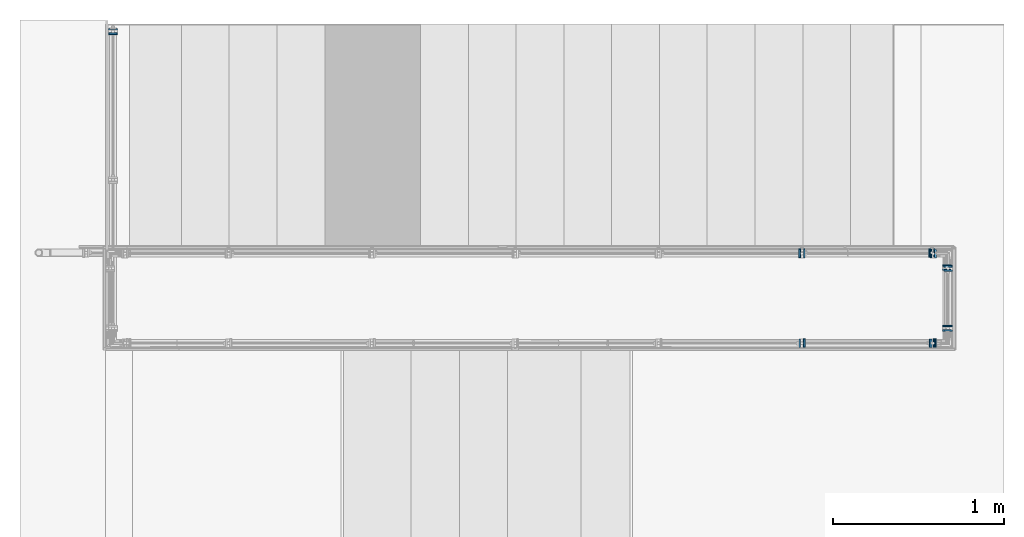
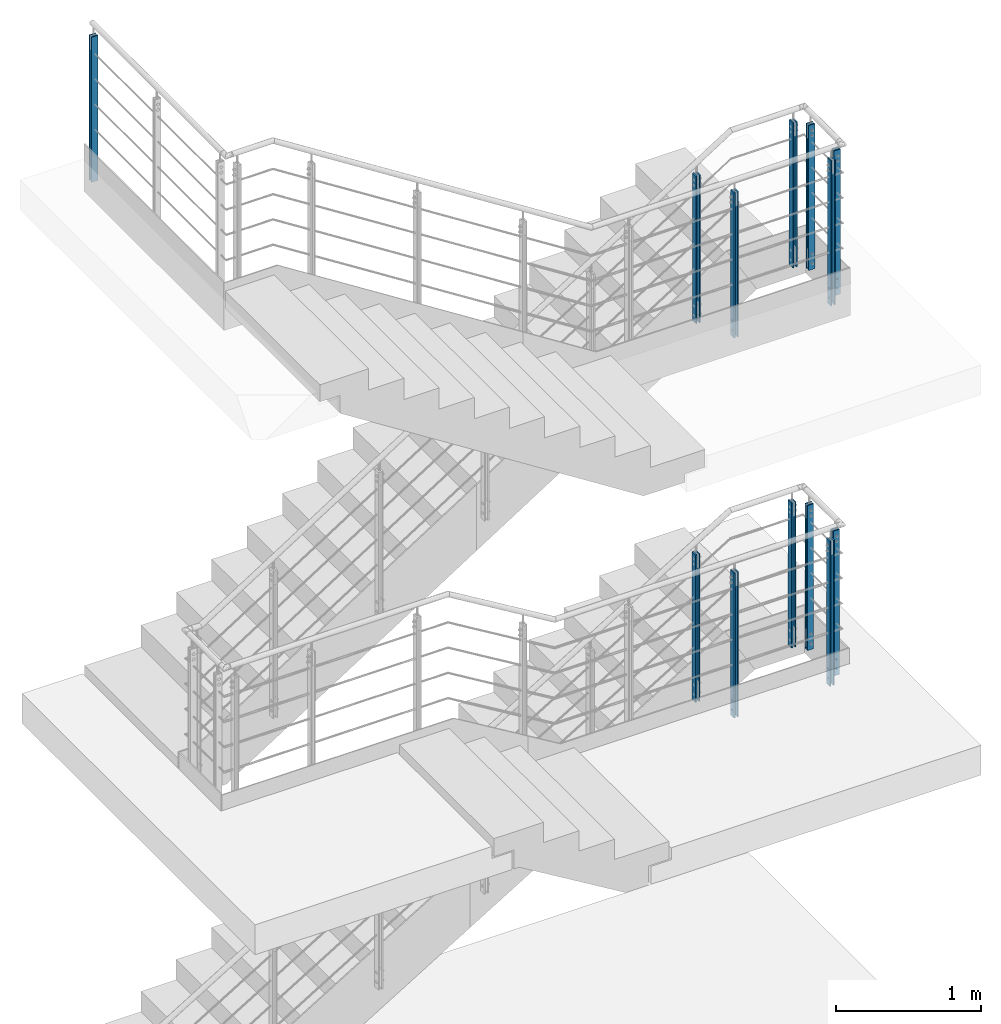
# One storey, part 4 of 98: 26 columns, 52 openings.
"""IFC2X3 building model written with IfcOpenShell, lengths in millimetres."""

from ifc_helpers import new_model, entity, si_unit, converted_unit, frame, frame_2d, origin, origin_with_axes, origin_2d, place, context, project, spatial, rectangle, circle, extrude, material, element, save


model = new_model("IFC2X3")

# Units and contexts
model_context = context("Model", 3, precision=1e-09, world=origin_with_axes())
ifc_project = project(units=[si_unit("LENGTHUNIT", "METRE", prefix="MILLI"), si_unit("AREAUNIT", "SQUARE_METRE"), si_unit("VOLUMEUNIT", "CUBIC_METRE"), converted_unit("PLANEANGLEUNIT", "DEGREE", entity("IfcPlaneAngleMeasure", 0.01745329), si_unit("PLANEANGLEUNIT", "RADIAN"), dimensions=[0, 0, 0, 0, 0, 0, 0])], contexts=[model_context])

# Site, building, storey
site_placement = place(None, origin_with_axes())
site = spatial("IfcSite", under=ifc_project, at=site_placement, Name="Maybachstra?e 2, 71563 Affalterbach", CompositionType="ELEMENT")
building_placement = place(site_placement, origin_with_axes())
building = spatial("IfcBuilding", under=site, at=building_placement, Name="Struktur 1", CompositionType="ELEMENT")
storey_placement = place(building_placement, origin_with_axes())
storey = spatial("IfcBuildingStorey", under=building, at=storey_placement, Name="Default Storey", CompositionType="ELEMENT", Elevation=0.0)

# Column, openings
ifc_material = material(Name="S235JR")
column_1_placement = place(None, frame((11361.779157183, -570.0, 7070.1), z_axis=(0.0, 0.0, 1.0), x_axis=(-1.0, 0.0, 0.0)))
column_1 = element("IfcColumn", 1, at=column_1_placement, inside=storey, material=ifc_material, Name="-", ObjectType="-", context=model_context, shape_type="SweptSolid", body=[
    extrude(rectangle(XDim=10.0, YDim=50.0, at=origin_2d()), origin(), (0.0, 0.0, -1.0), 1217.6),
])
opening_1_placement = place(column_1_placement, frame((5.5, 0.0, -1122.6), z_axis=(-1.0, 0.0, 0.0), x_axis=(0.0, -1.0, 0.0)))
element("IfcOpeningElement", 2, at=opening_1_placement, cuts=column_1, ObjectType="Opening", context=model_context, shape_type="SweptSolid", body=[
    extrude(circle(Radius=7.001, at=frame_2d((0.0, 40.0), x_axis=(1.0, 0.0))), origin(), (0.0, 0.0, 1.0), 11.0),
])
opening_2_placement = place(column_1_placement, frame((5.5, 0.0, -1122.6), z_axis=(-1.0, 0.0, 0.0), x_axis=(0.0, -1.0, 0.0)))
element("IfcOpeningElement", 3, at=opening_2_placement, cuts=column_1, ObjectType="Opening", context=model_context, shape_type="SweptSolid", body=[
    extrude(circle(Radius=7.001, at=frame_2d((0.0, -40.0), x_axis=(1.0, 0.0))), origin(), (0.0, 0.0, 1.0), 11.0),
])
opening_3_placement = place(column_1_placement, frame((5.5, 0.0, -67.0), z_axis=(-1.0, 0.0, 0.0), x_axis=(0.0, -1.0, 0.0)))
element("IfcOpeningElement", 4, at=opening_3_placement, cuts=column_1, ObjectType="Opening", context=model_context, shape_type="SweptSolid", body=[
    extrude(circle(Radius=7.001, at=frame_2d((0.0, 22.0), x_axis=(1.0, 0.0))), origin(), (0.0, 0.0, 1.0), 11.0),
])
opening_4_placement = place(column_1_placement, frame((5.5, 0.0, -67.0), z_axis=(-1.0, 0.0, 0.0), x_axis=(0.0, -1.0, 0.0)))
element("IfcOpeningElement", 5, at=opening_4_placement, cuts=column_1, ObjectType="Opening", context=model_context, shape_type="SweptSolid", body=[
    extrude(circle(Radius=7.001, at=frame_2d((0.0, -22.0), x_axis=(1.0, 0.0))), origin(), (0.0, 0.0, 1.0), 11.0),
])

# Column
column_2_placement = place(None, frame((11388.279157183, -570.0, 7070.1), z_axis=(0.0, 0.0, 1.0), x_axis=(-1.0, 0.0, 0.0)))
element("IfcColumn", 6, at=column_2_placement, inside=storey, material=ifc_material, Name="Gel?nder", ObjectType="Gel?nder", context=model_context, shape_type="SweptSolid", body=[
    extrude(rectangle(XDim=10.0, YDim=50.0, at=origin_2d()), origin(), (0.0, 0.0, -1.0), 1217.6),
])

# Column, openings
column_3_placement = place(None, frame((12130.779157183, -570.0, 7070.1), z_axis=(0.0, 0.0, 1.0), x_axis=(-1.0, 0.0, 0.0)))
column_3 = element("IfcColumn", 7, at=column_3_placement, inside=storey, material=ifc_material, Name="-", ObjectType="-", context=model_context, shape_type="SweptSolid", body=[
    extrude(rectangle(XDim=10.0, YDim=50.0, at=origin_2d()), origin(), (0.0, 0.0, -1.0), 1217.6),
])
opening_5_placement = place(column_3_placement, frame((5.5, 0.0, -1122.6), z_axis=(-1.0, 0.0, 0.0), x_axis=(0.0, -1.0, 0.0)))
element("IfcOpeningElement", 8, at=opening_5_placement, cuts=column_3, ObjectType="Opening", context=model_context, shape_type="SweptSolid", body=[
    extrude(circle(Radius=7.001, at=frame_2d((0.0, 40.0), x_axis=(1.0, 0.0))), origin(), (0.0, 0.0, 1.0), 11.0),
])
opening_6_placement = place(column_3_placement, frame((5.5, 0.0, -1122.6), z_axis=(-1.0, 0.0, 0.0), x_axis=(0.0, -1.0, 0.0)))
element("IfcOpeningElement", 9, at=opening_6_placement, cuts=column_3, ObjectType="Opening", context=model_context, shape_type="SweptSolid", body=[
    extrude(circle(Radius=7.001, at=frame_2d((0.0, -40.0), x_axis=(1.0, 0.0))), origin(), (0.0, 0.0, 1.0), 11.0),
])
opening_7_placement = place(column_3_placement, frame((5.5, 0.0, -67.0), z_axis=(-1.0, 0.0, 0.0), x_axis=(0.0, -1.0, 0.0)))
element("IfcOpeningElement", 10, at=opening_7_placement, cuts=column_3, ObjectType="Opening", context=model_context, shape_type="SweptSolid", body=[
    extrude(circle(Radius=7.001, at=frame_2d((0.0, 22.0), x_axis=(1.0, 0.0))), origin(), (0.0, 0.0, 1.0), 11.0),
])
opening_8_placement = place(column_3_placement, frame((5.5, 0.0, -67.0), z_axis=(-1.0, 0.0, 0.0), x_axis=(0.0, -1.0, 0.0)))
element("IfcOpeningElement", 11, at=opening_8_placement, cuts=column_3, ObjectType="Opening", context=model_context, shape_type="SweptSolid", body=[
    extrude(circle(Radius=7.001, at=frame_2d((0.0, -22.0), x_axis=(1.0, 0.0))), origin(), (0.0, 0.0, 1.0), 11.0),
])

# Column
column_4_placement = place(None, frame((12157.279157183, -570.0, 7070.1), z_axis=(0.0, 0.0, 1.0), x_axis=(-1.0, 0.0, 0.0)))
element("IfcColumn", 12, at=column_4_placement, inside=storey, material=ifc_material, Name="Gel?nder", ObjectType="Gel?nder", context=model_context, shape_type="SweptSolid", body=[
    extrude(rectangle(XDim=10.0, YDim=50.0, at=origin_2d()), origin(), (0.0, 0.0, -1.0), 1217.6),
])

# Column, openings
column_5_placement = place(None, frame((11361.779157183, -569.0, 3877.6), z_axis=(0.0, 0.0, 1.0), x_axis=(-1.0, 0.0, 0.0)))
column_5 = element("IfcColumn", 13, at=column_5_placement, inside=storey, material=ifc_material, Name="-", ObjectType="-", context=model_context, shape_type="SweptSolid", body=[
    extrude(rectangle(XDim=10.0, YDim=50.0, at=origin_2d()), origin(), (0.0, 0.0, -1.0), 1217.6),
])
opening_9_placement = place(column_5_placement, frame((5.5, 0.0, -1122.6), z_axis=(-1.0, 0.0, 0.0), x_axis=(0.0, -1.0, 0.0)))
element("IfcOpeningElement", 14, at=opening_9_placement, cuts=column_5, ObjectType="Opening", context=model_context, shape_type="SweptSolid", body=[
    extrude(circle(Radius=7.001, at=frame_2d((0.0, 40.0), x_axis=(1.0, 0.0))), origin(), (0.0, 0.0, 1.0), 11.0),
])
opening_10_placement = place(column_5_placement, frame((5.5, 0.0, -1122.6), z_axis=(-1.0, 0.0, 0.0), x_axis=(0.0, -1.0, 0.0)))
element("IfcOpeningElement", 15, at=opening_10_placement, cuts=column_5, ObjectType="Opening", context=model_context, shape_type="SweptSolid", body=[
    extrude(circle(Radius=7.001, at=frame_2d((0.0, -40.0), x_axis=(1.0, 0.0))), origin(), (0.0, 0.0, 1.0), 11.0),
])
opening_11_placement = place(column_5_placement, frame((5.5, 0.0, -67.0), z_axis=(-1.0, 0.0, 0.0), x_axis=(0.0, -1.0, 0.0)))
element("IfcOpeningElement", 16, at=opening_11_placement, cuts=column_5, ObjectType="Opening", context=model_context, shape_type="SweptSolid", body=[
    extrude(circle(Radius=7.001, at=frame_2d((0.0, 22.0), x_axis=(1.0, 0.0))), origin(), (0.0, 0.0, 1.0), 11.0),
])
opening_12_placement = place(column_5_placement, frame((5.5, 0.0, -67.0), z_axis=(-1.0, 0.0, 0.0), x_axis=(0.0, -1.0, 0.0)))
element("IfcOpeningElement", 17, at=opening_12_placement, cuts=column_5, ObjectType="Opening", context=model_context, shape_type="SweptSolid", body=[
    extrude(circle(Radius=7.001, at=frame_2d((0.0, -22.0), x_axis=(1.0, 0.0))), origin(), (0.0, 0.0, 1.0), 11.0),
])

# Column
column_6_placement = place(None, frame((11388.279157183, -569.0, 3877.6), z_axis=(0.0, 0.0, 1.0), x_axis=(-1.0, 0.0, 0.0)))
element("IfcColumn", 18, at=column_6_placement, inside=storey, material=ifc_material, Name="Gel?nder", ObjectType="Gel?nder", context=model_context, shape_type="SweptSolid", body=[
    extrude(rectangle(XDim=10.0, YDim=50.0, at=origin_2d()), origin(), (0.0, 0.0, -1.0), 1217.6),
])

# Column, openings
column_7_placement = place(None, frame((12123.779157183, -569.0, 3877.6), z_axis=(0.0, 0.0, 1.0), x_axis=(-1.0, 0.0, 0.0)))
column_7 = element("IfcColumn", 19, at=column_7_placement, inside=storey, material=ifc_material, Name="-", ObjectType="-", context=model_context, shape_type="SweptSolid", body=[
    extrude(rectangle(XDim=10.0, YDim=50.0, at=origin_2d()), origin(), (0.0, 0.0, -1.0), 1217.6),
])
opening_13_placement = place(column_7_placement, frame((5.5, 0.0, -1122.6), z_axis=(-1.0, 0.0, 0.0), x_axis=(0.0, -1.0, 0.0)))
element("IfcOpeningElement", 20, at=opening_13_placement, cuts=column_7, ObjectType="Opening", context=model_context, shape_type="SweptSolid", body=[
    extrude(circle(Radius=7.001, at=frame_2d((0.0, 40.0), x_axis=(1.0, 0.0))), origin(), (0.0, 0.0, 1.0), 11.0),
])
opening_14_placement = place(column_7_placement, frame((5.5, 0.0, -1122.6), z_axis=(-1.0, 0.0, 0.0), x_axis=(0.0, -1.0, 0.0)))
element("IfcOpeningElement", 21, at=opening_14_placement, cuts=column_7, ObjectType="Opening", context=model_context, shape_type="SweptSolid", body=[
    extrude(circle(Radius=7.001, at=frame_2d((0.0, -40.0), x_axis=(1.0, 0.0))), origin(), (0.0, 0.0, 1.0), 11.0),
])
opening_15_placement = place(column_7_placement, frame((5.5, 0.0, -67.0), z_axis=(-1.0, 0.0, 0.0), x_axis=(0.0, -1.0, 0.0)))
element("IfcOpeningElement", 22, at=opening_15_placement, cuts=column_7, ObjectType="Opening", context=model_context, shape_type="SweptSolid", body=[
    extrude(circle(Radius=7.001, at=frame_2d((0.0, 22.0), x_axis=(1.0, 0.0))), origin(), (0.0, 0.0, 1.0), 11.0),
])
opening_16_placement = place(column_7_placement, frame((5.5, 0.0, -67.0), z_axis=(-1.0, 0.0, 0.0), x_axis=(0.0, -1.0, 0.0)))
element("IfcOpeningElement", 23, at=opening_16_placement, cuts=column_7, ObjectType="Opening", context=model_context, shape_type="SweptSolid", body=[
    extrude(circle(Radius=7.001, at=frame_2d((0.0, -22.0), x_axis=(1.0, 0.0))), origin(), (0.0, 0.0, 1.0), 11.0),
])

# Column
column_8_placement = place(None, frame((12150.279157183, -569.0, 3877.6), z_axis=(0.0, 0.0, 1.0), x_axis=(-1.0, 0.0, 0.0)))
element("IfcColumn", 24, at=column_8_placement, inside=storey, material=ifc_material, Name="Gel?nder", ObjectType="Gel?nder", context=model_context, shape_type="SweptSolid", body=[
    extrude(rectangle(XDim=10.0, YDim=50.0, at=origin_2d()), origin(), (0.0, 0.0, -1.0), 1217.6),
])

# Column, openings
column_9_placement = place(None, frame((11388.279157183, -40.0, 3708.682336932), z_axis=(0.0, 0.0, -1.0), x_axis=(1.0, 0.0, 0.0)))
column_9 = element("IfcColumn", 25, at=column_9_placement, inside=storey, material=ifc_material, Name="-", ObjectType="-", context=model_context, shape_type="SweptSolid", body=[
    extrude(rectangle(XDim=10.0, YDim=50.0, at=origin_2d()), origin(), (0.0, 0.0, 1.0), 1237.6),
])
opening_17_placement = place(column_9_placement, frame((5.5, 7.001, 1102.6), z_axis=(1.0, 0.0, 0.0), x_axis=(0.0, 1.0, 0.0)))
element("IfcOpeningElement", 26, at=opening_17_placement, cuts=column_9, ObjectType="Opening", context=model_context, shape_type="SweptSolid", body=[
    extrude(circle(Radius=7.001, at=frame_2d((-7.001, 0.0), x_axis=(1.0, 0.0))), origin(), (0.0, 0.0, -1.0), 11.0),
])
opening_18_placement = place(column_9_placement, frame((5.5, 7.001, 1182.6), z_axis=(1.0, 0.0, 0.0), x_axis=(0.0, 1.0, 0.0)))
element("IfcOpeningElement", 27, at=opening_18_placement, cuts=column_9, ObjectType="Opening", context=model_context, shape_type="SweptSolid", body=[
    extrude(circle(Radius=7.001, at=frame_2d((-7.001, 0.0), x_axis=(1.0, 0.0))), origin(), (0.0, 0.0, -1.0), 11.0),
])
opening_19_placement = place(column_9_placement, frame((5.5, 7.001, 45.0), z_axis=(1.0, 0.0, 0.0), x_axis=(0.0, 1.0, 0.0)))
element("IfcOpeningElement", 28, at=opening_19_placement, cuts=column_9, ObjectType="Opening", context=model_context, shape_type="SweptSolid", body=[
    extrude(circle(Radius=7.001, at=frame_2d((-7.001, 0.0), x_axis=(1.0, 0.0))), origin(), (0.0, 0.0, -1.0), 11.0),
])
opening_20_placement = place(column_9_placement, frame((5.5, 7.001, 89.0), z_axis=(1.0, 0.0, 0.0), x_axis=(0.0, 1.0, 0.0)))
element("IfcOpeningElement", 29, at=opening_20_placement, cuts=column_9, ObjectType="Opening", context=model_context, shape_type="SweptSolid", body=[
    extrude(circle(Radius=7.001, at=frame_2d((-7.001, 0.0), x_axis=(1.0, 0.0))), origin(), (0.0, 0.0, -1.0), 11.0),
])

# Column
column_10_placement = place(None, frame((11361.779157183, -40.0, 3708.682336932), z_axis=(0.0, 0.0, -1.0), x_axis=(1.0, 0.0, 0.0)))
element("IfcColumn", 30, at=column_10_placement, inside=storey, material=ifc_material, Name="Gel?nder", ObjectType="Gel?nder", context=model_context, shape_type="SweptSolid", body=[
    extrude(rectangle(XDim=10.0, YDim=50.0, at=origin_2d()), origin(), (0.0, 0.0, 1.0), 1237.6),
])

# Column, openings
column_11_placement = place(None, frame((11388.279157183, -45.0, 6891.377207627), z_axis=(0.0, 0.0, -1.0), x_axis=(1.0, 0.0, 0.0)))
column_11 = element("IfcColumn", 31, at=column_11_placement, inside=storey, material=ifc_material, Name="-", ObjectType="-", context=model_context, shape_type="SweptSolid", body=[
    extrude(rectangle(XDim=10.0, YDim=50.0, at=origin_2d()), origin(), (0.0, 0.0, 1.0), 1237.6),
])
opening_21_placement = place(column_11_placement, frame((5.5, 7.001, 1102.6), z_axis=(1.0, 0.0, 0.0), x_axis=(0.0, 1.0, 0.0)))
element("IfcOpeningElement", 32, at=opening_21_placement, cuts=column_11, ObjectType="Opening", context=model_context, shape_type="SweptSolid", body=[
    extrude(circle(Radius=7.001, at=frame_2d((-7.001, 0.0), x_axis=(1.0, 0.0))), origin(), (0.0, 0.0, -1.0), 11.0),
])
opening_22_placement = place(column_11_placement, frame((5.5, 7.001, 1182.6), z_axis=(1.0, 0.0, 0.0), x_axis=(0.0, 1.0, 0.0)))
element("IfcOpeningElement", 33, at=opening_22_placement, cuts=column_11, ObjectType="Opening", context=model_context, shape_type="SweptSolid", body=[
    extrude(circle(Radius=7.001, at=frame_2d((-7.001, 0.0), x_axis=(1.0, 0.0))), origin(), (0.0, 0.0, -1.0), 11.0),
])
opening_23_placement = place(column_11_placement, frame((5.5, 7.001, 45.0), z_axis=(1.0, 0.0, 0.0), x_axis=(0.0, 1.0, 0.0)))
element("IfcOpeningElement", 34, at=opening_23_placement, cuts=column_11, ObjectType="Opening", context=model_context, shape_type="SweptSolid", body=[
    extrude(circle(Radius=7.001, at=frame_2d((-7.001, 0.0), x_axis=(1.0, 0.0))), origin(), (0.0, 0.0, -1.0), 11.0),
])
opening_24_placement = place(column_11_placement, frame((5.5, 7.001, 89.0), z_axis=(1.0, 0.0, 0.0), x_axis=(0.0, 1.0, 0.0)))
element("IfcOpeningElement", 35, at=opening_24_placement, cuts=column_11, ObjectType="Opening", context=model_context, shape_type="SweptSolid", body=[
    extrude(circle(Radius=7.001, at=frame_2d((-7.001, 0.0), x_axis=(1.0, 0.0))), origin(), (0.0, 0.0, -1.0), 11.0),
])

# Columns
column_12_placement = place(None, frame((11361.779157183, -45.0, 6891.377207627), z_axis=(0.0, 0.0, -1.0), x_axis=(1.0, 0.0, 0.0)))
element("IfcColumn", 36, at=column_12_placement, inside=storey, material=ifc_material, Name="Gel?nder", ObjectType="Gel?nder", context=model_context, shape_type="SweptSolid", body=[
    extrude(rectangle(XDim=10.0, YDim=50.0, at=origin_2d()), origin(), (0.0, 0.0, 1.0), 1237.6),
])
column_13_placement = place(None, frame((12130.779157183, -45.0, 7070.1), z_axis=(0.0, 0.0, -1.0), x_axis=(1.0, 0.0, 0.0)))
element("IfcColumn", 37, at=column_13_placement, inside=storey, material=ifc_material, Name="Gel?nder", ObjectType="Gel?nder", context=model_context, shape_type="SweptSolid", body=[
    extrude(rectangle(XDim=10.0, YDim=50.0, at=origin_2d()), origin(), (0.0, 0.0, 1.0), 1217.6),
])

# Column, openings
column_14_placement = place(None, frame((12157.279157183, -45.0, 7070.1), z_axis=(0.0, 0.0, -1.0), x_axis=(1.0, 0.0, 0.0)))
column_14 = element("IfcColumn", 38, at=column_14_placement, inside=storey, material=ifc_material, Name="-", ObjectType="-", context=model_context, shape_type="SweptSolid", body=[
    extrude(rectangle(XDim=10.0, YDim=50.0, at=origin_2d()), origin(), (0.0, 0.0, 1.0), 1217.6),
])
opening_25_placement = place(column_14_placement, frame((5.5, 7.001, 1082.6), z_axis=(1.0, 0.0, 0.0), x_axis=(0.0, 1.0, 0.0)))
element("IfcOpeningElement", 39, at=opening_25_placement, cuts=column_14, ObjectType="Opening", context=model_context, shape_type="SweptSolid", body=[
    extrude(circle(Radius=7.001, at=frame_2d((-7.001, 0.0), x_axis=(1.0, 0.0))), origin(), (0.0, 0.0, -1.0), 11.0),
])
opening_26_placement = place(column_14_placement, frame((5.5, 7.001, 1162.6), z_axis=(1.0, 0.0, 0.0), x_axis=(0.0, 1.0, 0.0)))
element("IfcOpeningElement", 40, at=opening_26_placement, cuts=column_14, ObjectType="Opening", context=model_context, shape_type="SweptSolid", body=[
    extrude(circle(Radius=7.001, at=frame_2d((-7.001, 0.0), x_axis=(1.0, 0.0))), origin(), (0.0, 0.0, -1.0), 11.0),
])
opening_27_placement = place(column_14_placement, frame((5.5, 7.001, 45.0), z_axis=(1.0, 0.0, 0.0), x_axis=(0.0, 1.0, 0.0)))
element("IfcOpeningElement", 41, at=opening_27_placement, cuts=column_14, ObjectType="Opening", context=model_context, shape_type="SweptSolid", body=[
    extrude(circle(Radius=7.001, at=frame_2d((-7.001, 0.0), x_axis=(1.0, 0.0))), origin(), (0.0, 0.0, -1.0), 11.0),
])
opening_28_placement = place(column_14_placement, frame((5.5, 7.001, 89.0), z_axis=(1.0, 0.0, 0.0), x_axis=(0.0, 1.0, 0.0)))
element("IfcOpeningElement", 42, at=opening_28_placement, cuts=column_14, ObjectType="Opening", context=model_context, shape_type="SweptSolid", body=[
    extrude(circle(Radius=7.001, at=frame_2d((-7.001, 0.0), x_axis=(1.0, 0.0))), origin(), (0.0, 0.0, -1.0), 11.0),
])

# Column
column_15_placement = place(None, frame((12123.779157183, -40.0, 3877.6), z_axis=(0.0, 0.0, -1.0), x_axis=(1.0, 0.0, 0.0)))
element("IfcColumn", 43, at=column_15_placement, inside=storey, material=ifc_material, Name="Gel?nder", ObjectType="Gel?nder", context=model_context, shape_type="SweptSolid", body=[
    extrude(rectangle(XDim=10.0, YDim=50.0, at=origin_2d()), origin(), (0.0, 0.0, 1.0), 1217.6),
])

# Column, openings
column_16_placement = place(None, frame((12150.279157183, -40.0, 3877.6), z_axis=(0.0, 0.0, -1.0), x_axis=(1.0, 0.0, 0.0)))
column_16 = element("IfcColumn", 44, at=column_16_placement, inside=storey, material=ifc_material, Name="-", ObjectType="-", context=model_context, shape_type="SweptSolid", body=[
    extrude(rectangle(XDim=10.0, YDim=50.0, at=origin_2d()), origin(), (0.0, 0.0, 1.0), 1217.6),
])
opening_29_placement = place(column_16_placement, frame((5.5, 7.001, 1082.6), z_axis=(1.0, 0.0, 0.0), x_axis=(0.0, 1.0, 0.0)))
element("IfcOpeningElement", 45, at=opening_29_placement, cuts=column_16, ObjectType="Opening", context=model_context, shape_type="SweptSolid", body=[
    extrude(circle(Radius=7.001, at=frame_2d((-7.001, 0.0), x_axis=(1.0, 0.0))), origin(), (0.0, 0.0, -1.0), 11.0),
])
opening_30_placement = place(column_16_placement, frame((5.5, 7.001, 1162.6), z_axis=(1.0, 0.0, 0.0), x_axis=(0.0, 1.0, 0.0)))
element("IfcOpeningElement", 46, at=opening_30_placement, cuts=column_16, ObjectType="Opening", context=model_context, shape_type="SweptSolid", body=[
    extrude(circle(Radius=7.001, at=frame_2d((-7.001, 0.0), x_axis=(1.0, 0.0))), origin(), (0.0, 0.0, -1.0), 11.0),
])
opening_31_placement = place(column_16_placement, frame((5.5, 7.001, 45.0), z_axis=(1.0, 0.0, 0.0), x_axis=(0.0, 1.0, 0.0)))
element("IfcOpeningElement", 47, at=opening_31_placement, cuts=column_16, ObjectType="Opening", context=model_context, shape_type="SweptSolid", body=[
    extrude(circle(Radius=7.001, at=frame_2d((-7.001, 0.0), x_axis=(1.0, 0.0))), origin(), (0.0, 0.0, -1.0), 11.0),
])
opening_32_placement = place(column_16_placement, frame((5.5, 7.001, 89.0), z_axis=(1.0, 0.0, 0.0), x_axis=(0.0, 1.0, 0.0)))
element("IfcOpeningElement", 48, at=opening_32_placement, cuts=column_16, ObjectType="Opening", context=model_context, shape_type="SweptSolid", body=[
    extrude(circle(Radius=7.001, at=frame_2d((-7.001, 0.0), x_axis=(1.0, 0.0))), origin(), (0.0, 0.0, -1.0), 11.0),
])

# Column
column_17_placement = place(None, frame((12224.032157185, -468.75, 3877.6), z_axis=(0.0, 0.0, 1.0), x_axis=(0.0, -1.0, 0.0)))
element("IfcColumn", 49, at=column_17_placement, inside=storey, material=ifc_material, Name="Gel?nder", ObjectType="Gel?nder", context=model_context, shape_type="SweptSolid", body=[
    extrude(rectangle(XDim=10.0, YDim=50.0, at=origin_2d()), origin(), (0.0, 0.0, -1.0), 1217.6),
])

# Column, openings
column_18_placement = place(None, frame((12224.032157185, -495.25, 3877.6), z_axis=(0.0, 0.0, 1.0), x_axis=(0.0, -1.0, 0.0)))
column_18 = element("IfcColumn", 50, at=column_18_placement, inside=storey, material=ifc_material, Name="-", ObjectType="-", context=model_context, shape_type="SweptSolid", body=[
    extrude(rectangle(XDim=10.0, YDim=50.0, at=origin_2d()), origin(), (0.0, 0.0, -1.0), 1217.6),
])
opening_33_placement = place(column_18_placement, frame((5.5, 0.0, -1122.6), z_axis=(-1.0, 0.0, 0.0), x_axis=(0.0, -1.0, 0.0)))
element("IfcOpeningElement", 51, at=opening_33_placement, cuts=column_18, ObjectType="Opening", context=model_context, shape_type="SweptSolid", body=[
    extrude(circle(Radius=7.001, at=frame_2d((0.0, 40.0), x_axis=(1.0, 0.0))), origin(), (0.0, 0.0, 1.0), 11.0),
])
opening_34_placement = place(column_18_placement, frame((5.5, 0.0, -1122.6), z_axis=(-1.0, 0.0, 0.0), x_axis=(0.0, -1.0, 0.0)))
element("IfcOpeningElement", 52, at=opening_34_placement, cuts=column_18, ObjectType="Opening", context=model_context, shape_type="SweptSolid", body=[
    extrude(circle(Radius=7.001, at=frame_2d((0.0, -40.0), x_axis=(1.0, 0.0))), origin(), (0.0, 0.0, 1.0), 11.0),
])
opening_35_placement = place(column_18_placement, frame((5.5, 0.0, -67.0), z_axis=(-1.0, 0.0, 0.0), x_axis=(0.0, -1.0, 0.0)))
element("IfcOpeningElement", 53, at=opening_35_placement, cuts=column_18, ObjectType="Opening", context=model_context, shape_type="SweptSolid", body=[
    extrude(circle(Radius=7.001, at=frame_2d((0.0, 22.0), x_axis=(1.0, 0.0))), origin(), (0.0, 0.0, 1.0), 11.0),
])
opening_36_placement = place(column_18_placement, frame((5.5, 0.0, -67.0), z_axis=(-1.0, 0.0, 0.0), x_axis=(0.0, -1.0, 0.0)))
element("IfcOpeningElement", 54, at=opening_36_placement, cuts=column_18, ObjectType="Opening", context=model_context, shape_type="SweptSolid", body=[
    extrude(circle(Radius=7.001, at=frame_2d((0.0, -22.0), x_axis=(1.0, 0.0))), origin(), (0.0, 0.0, 1.0), 11.0),
])

# Column
column_19_placement = place(None, frame((12224.032157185, -113.75, 3877.6), z_axis=(0.0, 0.0, 1.0), x_axis=(0.0, -1.0, 0.0)))
element("IfcColumn", 55, at=column_19_placement, inside=storey, material=ifc_material, Name="Gel?nder", ObjectType="Gel?nder", context=model_context, shape_type="SweptSolid", body=[
    extrude(rectangle(XDim=10.0, YDim=50.0, at=origin_2d()), origin(), (0.0, 0.0, -1.0), 1217.6),
])

# Column, openings
column_20_placement = place(None, frame((12224.032157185, -140.25, 3877.6), z_axis=(0.0, 0.0, 1.0), x_axis=(0.0, -1.0, 0.0)))
column_20 = element("IfcColumn", 56, at=column_20_placement, inside=storey, material=ifc_material, Name="-", ObjectType="-", context=model_context, shape_type="SweptSolid", body=[
    extrude(rectangle(XDim=10.0, YDim=50.0, at=origin_2d()), origin(), (0.0, 0.0, -1.0), 1217.6),
])
opening_37_placement = place(column_20_placement, frame((5.5, 0.0, -1122.6), z_axis=(-1.0, 0.0, 0.0), x_axis=(0.0, -1.0, 0.0)))
element("IfcOpeningElement", 57, at=opening_37_placement, cuts=column_20, ObjectType="Opening", context=model_context, shape_type="SweptSolid", body=[
    extrude(circle(Radius=7.001, at=frame_2d((0.0, 40.0), x_axis=(1.0, 0.0))), origin(), (0.0, 0.0, 1.0), 11.0),
])
opening_38_placement = place(column_20_placement, frame((5.5, 0.0, -1122.6), z_axis=(-1.0, 0.0, 0.0), x_axis=(0.0, -1.0, 0.0)))
element("IfcOpeningElement", 58, at=opening_38_placement, cuts=column_20, ObjectType="Opening", context=model_context, shape_type="SweptSolid", body=[
    extrude(circle(Radius=7.001, at=frame_2d((0.0, -40.0), x_axis=(1.0, 0.0))), origin(), (0.0, 0.0, 1.0), 11.0),
])
opening_39_placement = place(column_20_placement, frame((5.5, 0.0, -67.0), z_axis=(-1.0, 0.0, 0.0), x_axis=(0.0, -1.0, 0.0)))
element("IfcOpeningElement", 59, at=opening_39_placement, cuts=column_20, ObjectType="Opening", context=model_context, shape_type="SweptSolid", body=[
    extrude(circle(Radius=7.001, at=frame_2d((0.0, 22.0), x_axis=(1.0, 0.0))), origin(), (0.0, 0.0, 1.0), 11.0),
])
opening_40_placement = place(column_20_placement, frame((5.5, 0.0, -67.0), z_axis=(-1.0, 0.0, 0.0), x_axis=(0.0, -1.0, 0.0)))
element("IfcOpeningElement", 60, at=opening_40_placement, cuts=column_20, ObjectType="Opening", context=model_context, shape_type="SweptSolid", body=[
    extrude(circle(Radius=7.001, at=frame_2d((0.0, -22.0), x_axis=(1.0, 0.0))), origin(), (0.0, 0.0, 1.0), 11.0),
])

# Column
column_21_placement = place(None, frame((12231.032157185, -469.75, 7070.1), z_axis=(0.0, 0.0, 1.0), x_axis=(0.0, -1.0, 0.0)))
element("IfcColumn", 61, at=column_21_placement, inside=storey, material=ifc_material, Name="Gel?nder", ObjectType="Gel?nder", context=model_context, shape_type="SweptSolid", body=[
    extrude(rectangle(XDim=10.0, YDim=50.0, at=origin_2d()), origin(), (0.0, 0.0, -1.0), 1217.6),
])

# Column, openings
column_22_placement = place(None, frame((12231.032157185, -496.25, 7070.1), z_axis=(0.0, 0.0, 1.0), x_axis=(0.0, -1.0, 0.0)))
column_22 = element("IfcColumn", 62, at=column_22_placement, inside=storey, material=ifc_material, Name="-", ObjectType="-", context=model_context, shape_type="SweptSolid", body=[
    extrude(rectangle(XDim=10.0, YDim=50.0, at=origin_2d()), origin(), (0.0, 0.0, -1.0), 1217.6),
])
opening_41_placement = place(column_22_placement, frame((5.5, 0.0, -1122.6), z_axis=(-1.0, 0.0, 0.0), x_axis=(0.0, -1.0, 0.0)))
element("IfcOpeningElement", 63, at=opening_41_placement, cuts=column_22, ObjectType="Opening", context=model_context, shape_type="SweptSolid", body=[
    extrude(circle(Radius=7.001, at=frame_2d((0.0, 40.0), x_axis=(1.0, 0.0))), origin(), (0.0, 0.0, 1.0), 11.0),
])
opening_42_placement = place(column_22_placement, frame((5.5, 0.0, -1122.6), z_axis=(-1.0, 0.0, 0.0), x_axis=(0.0, -1.0, 0.0)))
element("IfcOpeningElement", 64, at=opening_42_placement, cuts=column_22, ObjectType="Opening", context=model_context, shape_type="SweptSolid", body=[
    extrude(circle(Radius=7.001, at=frame_2d((0.0, -40.0), x_axis=(1.0, 0.0))), origin(), (0.0, 0.0, 1.0), 11.0),
])
opening_43_placement = place(column_22_placement, frame((5.5, 0.0, -67.0), z_axis=(-1.0, 0.0, 0.0), x_axis=(0.0, -1.0, 0.0)))
element("IfcOpeningElement", 65, at=opening_43_placement, cuts=column_22, ObjectType="Opening", context=model_context, shape_type="SweptSolid", body=[
    extrude(circle(Radius=7.001, at=frame_2d((0.0, 22.0), x_axis=(1.0, 0.0))), origin(), (0.0, 0.0, 1.0), 11.0),
])
opening_44_placement = place(column_22_placement, frame((5.5, 0.0, -67.0), z_axis=(-1.0, 0.0, 0.0), x_axis=(0.0, -1.0, 0.0)))
element("IfcOpeningElement", 66, at=opening_44_placement, cuts=column_22, ObjectType="Opening", context=model_context, shape_type="SweptSolid", body=[
    extrude(circle(Radius=7.001, at=frame_2d((0.0, -22.0), x_axis=(1.0, 0.0))), origin(), (0.0, 0.0, 1.0), 11.0),
])

# Column
column_23_placement = place(None, frame((12231.032157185, -118.75, 7070.1), z_axis=(0.0, 0.0, 1.0), x_axis=(0.0, -1.0, 0.0)))
element("IfcColumn", 67, at=column_23_placement, inside=storey, material=ifc_material, Name="Gel?nder", ObjectType="Gel?nder", context=model_context, shape_type="SweptSolid", body=[
    extrude(rectangle(XDim=10.0, YDim=50.0, at=origin_2d()), origin(), (0.0, 0.0, -1.0), 1217.6),
])

# Column, openings
column_24_placement = place(None, frame((12231.032157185, -145.25, 7070.1), z_axis=(0.0, 0.0, 1.0), x_axis=(0.0, -1.0, 0.0)))
column_24 = element("IfcColumn", 68, at=column_24_placement, inside=storey, material=ifc_material, Name="-", ObjectType="-", context=model_context, shape_type="SweptSolid", body=[
    extrude(rectangle(XDim=10.0, YDim=50.0, at=origin_2d()), origin(), (0.0, 0.0, -1.0), 1217.6),
])
opening_45_placement = place(column_24_placement, frame((5.5, 0.0, -1122.6), z_axis=(-1.0, 0.0, 0.0), x_axis=(0.0, -1.0, 0.0)))
element("IfcOpeningElement", 69, at=opening_45_placement, cuts=column_24, ObjectType="Opening", context=model_context, shape_type="SweptSolid", body=[
    extrude(circle(Radius=7.001, at=frame_2d((0.0, 40.0), x_axis=(1.0, 0.0))), origin(), (0.0, 0.0, 1.0), 11.0),
])
opening_46_placement = place(column_24_placement, frame((5.5, 0.0, -1122.6), z_axis=(-1.0, 0.0, 0.0), x_axis=(0.0, -1.0, 0.0)))
element("IfcOpeningElement", 70, at=opening_46_placement, cuts=column_24, ObjectType="Opening", context=model_context, shape_type="SweptSolid", body=[
    extrude(circle(Radius=7.001, at=frame_2d((0.0, -40.0), x_axis=(1.0, 0.0))), origin(), (0.0, 0.0, 1.0), 11.0),
])
opening_47_placement = place(column_24_placement, frame((5.5, 0.0, -67.0), z_axis=(-1.0, 0.0, 0.0), x_axis=(0.0, -1.0, 0.0)))
element("IfcOpeningElement", 71, at=opening_47_placement, cuts=column_24, ObjectType="Opening", context=model_context, shape_type="SweptSolid", body=[
    extrude(circle(Radius=7.001, at=frame_2d((0.0, 22.0), x_axis=(1.0, 0.0))), origin(), (0.0, 0.0, 1.0), 11.0),
])
opening_48_placement = place(column_24_placement, frame((5.5, 0.0, -67.0), z_axis=(-1.0, 0.0, 0.0), x_axis=(0.0, -1.0, 0.0)))
element("IfcOpeningElement", 72, at=opening_48_placement, cuts=column_24, ObjectType="Opening", context=model_context, shape_type="SweptSolid", body=[
    extrude(circle(Radius=7.001, at=frame_2d((0.0, -22.0), x_axis=(1.0, 0.0))), origin(), (0.0, 0.0, 1.0), 11.0),
])

# Column
column_25_placement = place(None, frame((7338.029157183, 1243.75, 8682.599999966), z_axis=(0.0, 0.0, 1.0), x_axis=(0.0, 1.0, 0.0)))
element("IfcColumn", 73, at=column_25_placement, inside=storey, material=ifc_material, Name="Gel?nder", ObjectType="Gel?nder", context=model_context, shape_type="SweptSolid", body=[
    extrude(rectangle(XDim=10.0, YDim=50.0, at=origin_2d()), origin(), (0.0, 0.0, -1.0), 1217.6),
])

# Column, openings
column_26_placement = place(None, frame((7338.029157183, 1270.25, 8682.599999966), z_axis=(0.0, 0.0, 1.0), x_axis=(0.0, 1.0, 0.0)))
column_26 = element("IfcColumn", 74, at=column_26_placement, inside=storey, material=ifc_material, Name="Girder", ObjectType="Girder", context=model_context, shape_type="SweptSolid", body=[
    extrude(rectangle(XDim=10.0, YDim=50.0, at=origin_2d()), origin(), (0.0, 0.0, -1.0), 1217.6),
])
opening_49_placement = place(column_26_placement, frame((5.5, 0.0, -1122.6), z_axis=(-1.0, 0.0, 0.0), x_axis=(0.0, -1.0, 0.0)))
element("IfcOpeningElement", 75, at=opening_49_placement, cuts=column_26, ObjectType="Opening", context=model_context, shape_type="SweptSolid", body=[
    extrude(circle(Radius=7.001, at=frame_2d((0.0, 40.0), x_axis=(1.0, 0.0))), origin(), (0.0, 0.0, 1.0), 11.0),
])
opening_50_placement = place(column_26_placement, frame((5.5, 0.0, -1122.6), z_axis=(-1.0, 0.0, 0.0), x_axis=(0.0, -1.0, 0.0)))
element("IfcOpeningElement", 76, at=opening_50_placement, cuts=column_26, ObjectType="Opening", context=model_context, shape_type="SweptSolid", body=[
    extrude(circle(Radius=7.001, at=frame_2d((0.0, -40.0), x_axis=(1.0, 0.0))), origin(), (0.0, 0.0, 1.0), 11.0),
])
opening_51_placement = place(column_26_placement, frame((5.5, 0.0, -67.0), z_axis=(-1.0, 0.0, 0.0), x_axis=(0.0, -1.0, 0.0)))
element("IfcOpeningElement", 77, at=opening_51_placement, cuts=column_26, ObjectType="Opening", context=model_context, shape_type="SweptSolid", body=[
    extrude(circle(Radius=7.001, at=frame_2d((0.0, 22.0), x_axis=(1.0, 0.0))), origin(), (0.0, 0.0, 1.0), 11.0),
])
opening_52_placement = place(column_26_placement, frame((5.5, 0.0, -67.0), z_axis=(-1.0, 0.0, 0.0), x_axis=(0.0, -1.0, 0.0)))
element("IfcOpeningElement", 78, at=opening_52_placement, cuts=column_26, ObjectType="Opening", context=model_context, shape_type="SweptSolid", body=[
    extrude(circle(Radius=7.001, at=frame_2d((0.0, -22.0), x_axis=(1.0, 0.0))), origin(), (0.0, 0.0, 1.0), 11.0),
])

save(model, "model.ifc")
